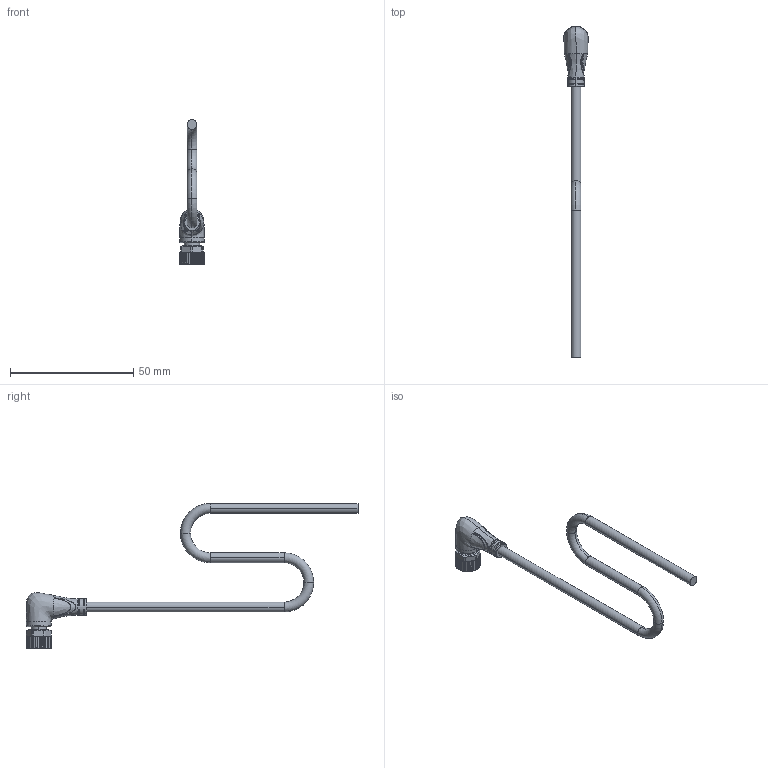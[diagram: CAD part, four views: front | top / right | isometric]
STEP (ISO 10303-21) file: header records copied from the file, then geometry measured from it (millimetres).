
FILE_DESCRIPTION (( 'STEP AP214' ), '1' );
FILE_NAME ('M8-3FVL-02Y .STEP', '2025-09-25T06:07:15', ( 'Windows User' ), ( 'P R C' ), 'SwSTEP 2.0', 'SolidWorks 2023', '' );
FILE_SCHEMA (( 'AUTOMOTIVE_DESIGN' ));
Length unit declared in the file: millimetre
Products named in the file (8): SD1100822-M8滚花螺母（内螺纹对边9）-B2带退刀槽; 密封圈; SD1705293-M8-3P母端插座-A0; 导线_φ4.0; M8 PCB （机加工）三芯; 90°包胶; M8母端插针（机加工件）; M8-3FVL-02Y 
Assembly tree (9 placements, depth 2):
  M8-3FVL-02Y 
    SD1705293-M8-3P母端插座-A0
    SD1100822-M8滚花螺母（内螺纹对边9）-B2带退刀槽
    密封圈
    导线_φ4.0
    90°包胶
    M8母端插针（机加工件）  x3
    M8 PCB （机加工）三芯
Bounding box: 10.33 x 134.7 x 58.8 mm (x, y, z)
Volume: 5337.8 mm3; surface area: 5773.7 mm2
Topology: 9 solids, 9 shells, 781 faces, 2014 edges, 1289 vertices
Faces by surface type: cylinder 213, plane 205, bspline 177, cone 162, torus 24
Entity records: 36681 total; most frequent: CARTESIAN_POINT 20818, ORIENTED_EDGE 3640, DIRECTION 2731, EDGE_CURVE 1820, VERTEX_POINT 1175, AXIS2_PLACEMENT_3D 1059, EDGE_LOOP 743, FACE_OUTER_BOUND 693
